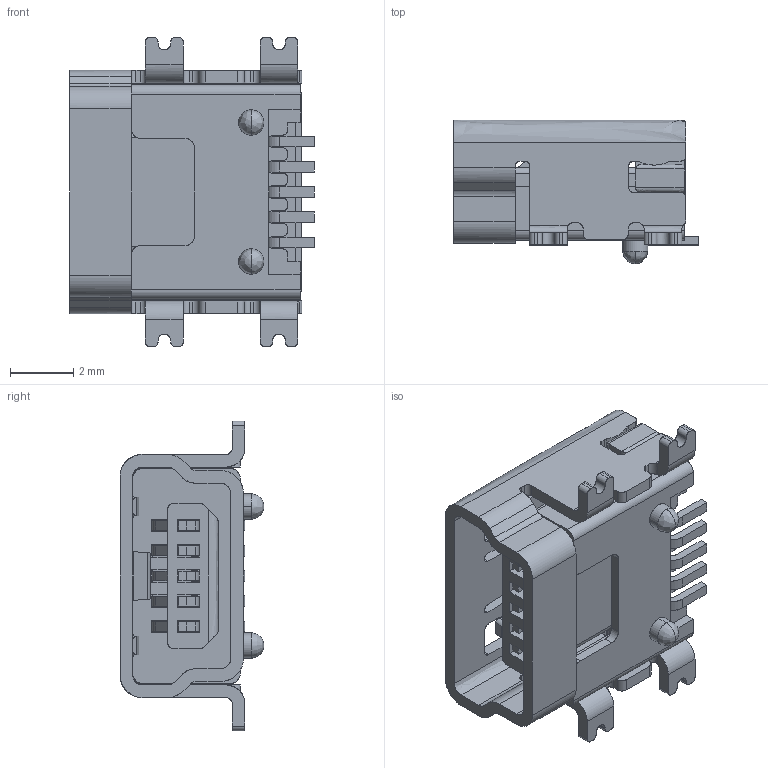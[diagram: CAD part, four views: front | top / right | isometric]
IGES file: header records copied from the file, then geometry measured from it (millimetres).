
Start section: SolidWorks IGES file using analytic representation for surfaces
Global section: file name: E:\0John's Case\2_Product_xiaojua\8969\B05\8969-B05C30DSBT.IGS; native system: SolidWorks 2007; preprocessor: SolidWorks 2007; author: knoprd40; date: 091021.180724; units: millimetre
Bounding box: 7.75 x 4.55 x 9.8 mm (x, y, z)
Surface area: 589.9 mm2 (no closed solid volume)
Topology: 0 solids, 0 shells, 664 faces, 4745 edges, 4738 vertices
Faces by surface type: bspline 380, revolution 284
